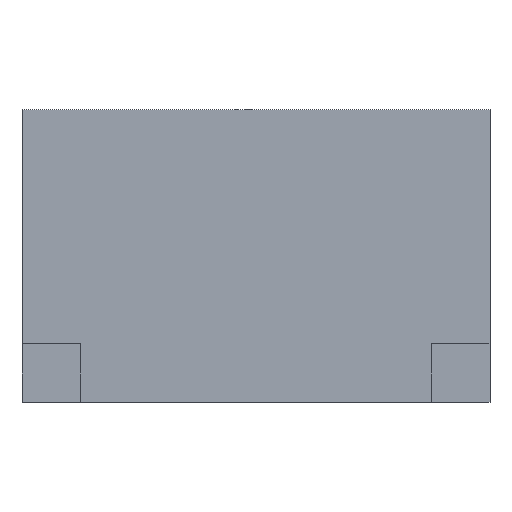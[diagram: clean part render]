
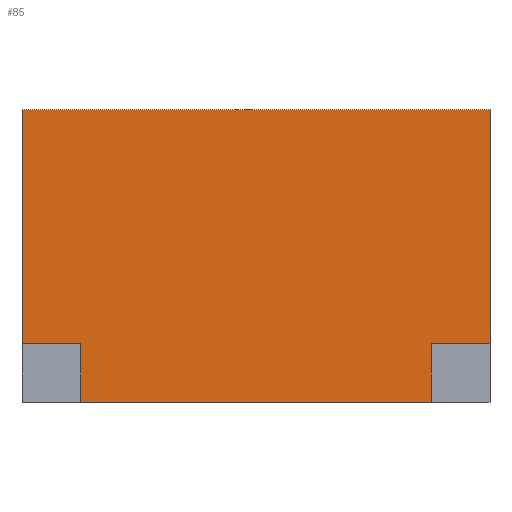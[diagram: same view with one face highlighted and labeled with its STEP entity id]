
A CAD part, front view. The second image highlights one B-rep face of the part: STEP entity #85.
In plain terms, the highlighted planar face has unit normal (0, -1, 0).
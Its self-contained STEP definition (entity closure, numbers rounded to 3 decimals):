
#85=ADVANCED_FACE('',(#187),#189,.F.);
#187=FACE_BOUND('',#188,.T.);
#188=EDGE_LOOP('',(#270,#271,#272,#273,#274,#275,#276,#277));
#189=PLANE('',#190);
#190=AXIS2_PLACEMENT_3D('',#191,#192,#193);
#191=CARTESIAN_POINT('',(0.,0.,0.));
#192=DIRECTION('',(0.,1.,0.));
#193=DIRECTION('',(-1.,0.,0.));
#270=ORIENTED_EDGE('',*,*,#328,.F.);
#271=ORIENTED_EDGE('',*,*,#316,.F.);
#272=ORIENTED_EDGE('',*,*,#329,.F.);
#273=ORIENTED_EDGE('',*,*,#330,.F.);
#274=ORIENTED_EDGE('',*,*,#310,.F.);
#275=ORIENTED_EDGE('',*,*,#331,.F.);
#276=ORIENTED_EDGE('',*,*,#323,.F.);
#277=ORIENTED_EDGE('',*,*,#332,.F.);
#310=EDGE_CURVE('',#340,#341,#342,.T.);
#316=EDGE_CURVE('',#352,#353,#354,.T.);
#323=EDGE_CURVE('',#365,#366,#367,.T.);
#328=EDGE_CURVE('',#353,#374,#375,.F.);
#329=EDGE_CURVE('',#376,#352,#377,.F.);
#330=EDGE_CURVE('',#341,#376,#378,.F.);
#331=EDGE_CURVE('',#366,#340,#379,.T.);
#332=EDGE_CURVE('',#374,#365,#380,.F.);
#340=VERTEX_POINT('',#390);
#341=VERTEX_POINT('',#391);
#342=LINE('',#392,#393);
#352=VERTEX_POINT('',#414);
#353=VERTEX_POINT('',#415);
#354=LINE('',#416,#417);
#365=VERTEX_POINT('',#441);
#366=VERTEX_POINT('',#442);
#367=LINE('',#443,#444);
#374=VERTEX_POINT('',#460);
#375=LINE('',#461,#462);
#376=VERTEX_POINT('',#464);
#377=LINE('',#465,#466);
#378=LINE('',#468,#469);
#379=LINE('',#471,#472);
#380=LINE('',#474,#475);
#390=CARTESIAN_POINT('',(12.,0.,15.));
#391=CARTESIAN_POINT('',(12.,0.,3.));
#392=CARTESIAN_POINT('',(12.,0.,15.));
#393=VECTOR('',#394,1.);
#394=DIRECTION('',(0.,0.,-1.));
#414=CARTESIAN_POINT('',(9.,0.,0.));
#415=CARTESIAN_POINT('',(-9.,0.,0.));
#416=CARTESIAN_POINT('',(9.,0.,0.));
#417=VECTOR('',#418,1.);
#418=DIRECTION('',(-1.,0.,0.));
#441=CARTESIAN_POINT('',(-12.,0.,3.));
#442=CARTESIAN_POINT('',(-12.,0.,15.));
#443=CARTESIAN_POINT('',(-12.,0.,3.));
#444=VECTOR('',#445,1.);
#445=DIRECTION('',(0.,0.,1.));
#460=CARTESIAN_POINT('',(-9.,0.,3.));
#461=CARTESIAN_POINT('',(-9.,0.,3.));
#462=VECTOR('',#463,1.);
#463=DIRECTION('',(0.,0.,-1.));
#464=CARTESIAN_POINT('',(9.,0.,3.));
#465=CARTESIAN_POINT('',(9.,0.,0.));
#466=VECTOR('',#467,1.);
#467=DIRECTION('',(0.,0.,1.));
#468=CARTESIAN_POINT('',(9.,0.,3.));
#469=VECTOR('',#470,1.);
#470=DIRECTION('',(1.,0.,0.));
#471=CARTESIAN_POINT('',(-12.,0.,15.));
#472=VECTOR('',#473,1.);
#473=DIRECTION('',(1.,0.,0.));
#474=CARTESIAN_POINT('',(-12.,0.,3.));
#475=VECTOR('',#476,1.);
#476=DIRECTION('',(1.,0.,0.));
